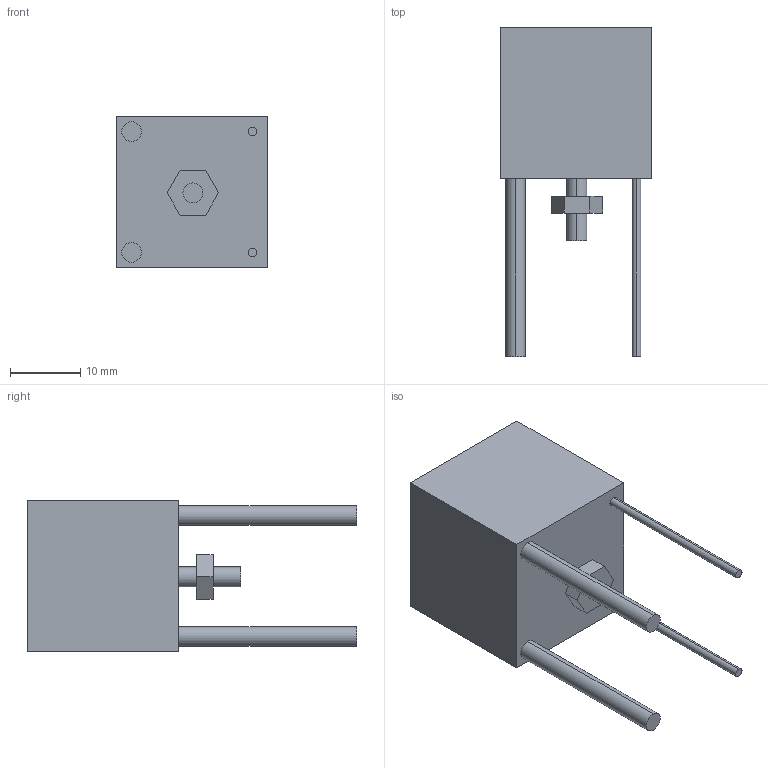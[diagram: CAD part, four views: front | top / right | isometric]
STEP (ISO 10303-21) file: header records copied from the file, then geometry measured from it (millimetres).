
FILE_DESCRIPTION (( 'STEP AP214' ), '1' );
FILE_NAME ('Q60-100.STEP', '2017-10-18T16:34:13', ( '' ), ( '' ), 'SwSTEP 2.0', 'SolidWorks 2017', '' );
FILE_SCHEMA (( 'AUTOMOTIVE_DESIGN' ));
Length unit declared in the file: inch
Products named in the file (1): Q60-100
Bounding box: 21.59 x 46.99 x 21.59 mm (x, y, z)
Volume: 10564 mm3; surface area: 3655.6 mm2
Topology: 2 solids, 2 shells, 31 faces, 66 edges, 44 vertices
Faces by surface type: plane 19, cylinder 12
Entity records: 977 total; most frequent: DIRECTION 154, CARTESIAN_POINT 142, ORIENTED_EDGE 132, EDGE_CURVE 66, AXIS2_PLACEMENT_3D 56, VERTEX_POINT 44, VECTOR 42, LINE 42
